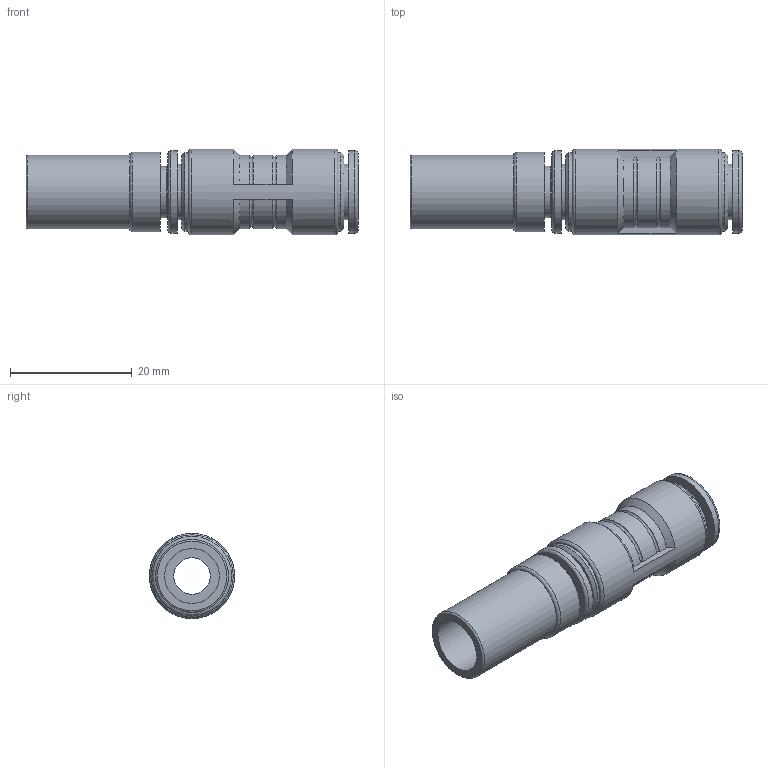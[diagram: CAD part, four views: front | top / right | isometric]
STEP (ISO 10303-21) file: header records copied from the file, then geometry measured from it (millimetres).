
FILE_DESCRIPTION((''),'2;1');
FILE_NAME('E:\2012年度板ﾃﾞｰﾀ\CHIYODA 3D-CAD DATA (Inventor 11)\TOUCH CONNECTOR FIVE (Inventor 11)\[21] REDUCER\[06] FR8-12RC FR8-12RCW.stp','2012-03-21T16:32:52',('kazuhiro.t'),(''),'Autodesk Inventor 11','Autodesk Inventor 11','');
FILE_SCHEMA(('AUTOMOTIVE_DESIGN { 1 0 10303 214 1 1 1 1 }'));
Length unit declared in the file: millimetre
Products named in the file (1): [06] FR8-12RC FR8-12RCW
Bounding box: 54.5 x 14 x 14 mm (x, y, z)
Volume: 4314.8 mm3; surface area: 4212.4 mm2
Topology: 1 solids, 1 shells, 55 faces, 112 edges, 72 vertices
Faces by surface type: bspline 21, cylinder 13, plane 12, torus 6, cone 3
Full cylindrical faces by diameter (mm): 6 x1, 8 x1, 8.5 x1, 9.1 x1, 12 x1, 12.9 x1, 13 x1, 13.5 x1, 14 x1
Entity records: 1806 total; most frequent: CARTESIAN_POINT 799, DIRECTION 192, ORIENTED_EDGE 170, EDGE_LOOP 94, AXIS2_PLACEMENT_3D 88, EDGE_CURVE 85, VERTEX_POINT 69, FACE_OUTER_BOUND 55
